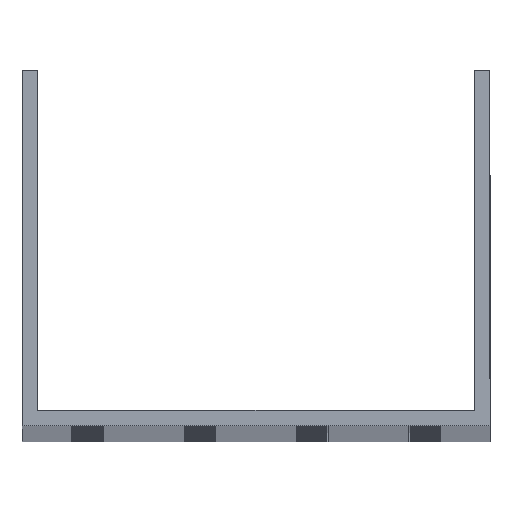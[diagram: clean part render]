
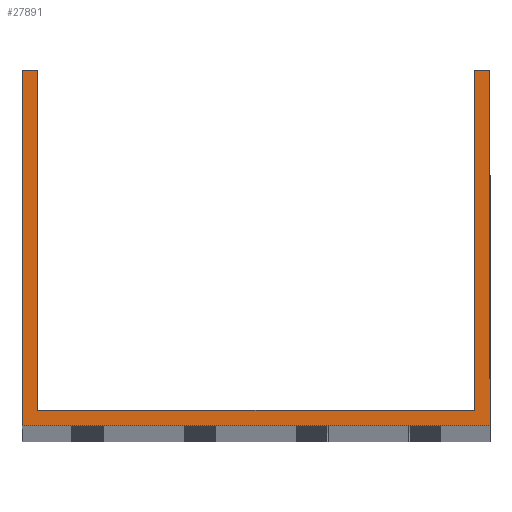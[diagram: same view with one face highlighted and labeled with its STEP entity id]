
A CAD part, top view. The second image highlights one B-rep face of the part: STEP entity #27891.
In plain terms, the highlighted planar face has unit normal (0, 0, 1).
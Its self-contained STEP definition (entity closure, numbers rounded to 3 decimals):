
#1480 = LINE ( 'NONE', #46314, #17256 ) ;
#4371 = CARTESIAN_POINT ( 'NONE',  ( 52., 79., 1000. ) ) ;
#4376 = VERTEX_POINT ( 'NONE', #4371 ) ;
#4600 = VECTOR ( 'NONE', #40251, 1000. ) ;
#5480 = LINE ( 'NONE', #16670, #40493 ) ;
#6512 = LINE ( 'NONE', #42334, #51963 ) ;
#8080 = VECTOR ( 'NONE', #13184, 1000. ) ;
#8086 = EDGE_CURVE ( 'NONE', #16074, #39019, #6512, .T. ) ;
#8810 = DIRECTION ( 'NONE',  ( 1., 0., 0. ) ) ;
#8854 = ORIENTED_EDGE ( 'NONE', *, *, #8086, .F. ) ;
#8920 = VECTOR ( 'NONE', #8810, 1000. ) ;
#9709 = DIRECTION ( 'NONE',  ( 0., -1., 0. ) ) ;
#10621 = VERTEX_POINT ( 'NONE', #35277 ) ;
#10988 = ORIENTED_EDGE ( 'NONE', *, *, #52279, .F. ) ;
#10990 = CARTESIAN_POINT ( 'NONE',  ( -52., 0., 1000. ) ) ;
#11875 = LINE ( 'NONE', #44230, #4600 ) ;
#12452 = ORIENTED_EDGE ( 'NONE', *, *, #22866, .F. ) ;
#12587 = EDGE_CURVE ( 'NONE', #4376, #24674, #5480, .T. ) ;
#13184 = DIRECTION ( 'NONE',  ( -1., 0., 0. ) ) ;
#15161 = VECTOR ( 'NONE', #21233, 1000. ) ;
#16074 = VERTEX_POINT ( 'NONE', #20303 ) ;
#16670 = CARTESIAN_POINT ( 'NONE',  ( -52., 79., 1000. ) ) ;
#17256 = VECTOR ( 'NONE', #9709, 1000. ) ;
#20303 = CARTESIAN_POINT ( 'NONE',  ( -48.5, 79., 1000. ) ) ;
#21143 = ORIENTED_EDGE ( 'NONE', *, *, #39841, .T. ) ;
#21233 = DIRECTION ( 'NONE',  ( 0., 1., 0. ) ) ;
#21995 = CARTESIAN_POINT ( 'NONE',  ( 48.5, 79., 1000. ) ) ;
#22708 = EDGE_LOOP ( 'NONE', ( #8854, #36629, #33543, #34823, #21143, #35068, #10988, #12452 ) ) ;
#22804 = CARTESIAN_POINT ( 'NONE',  ( 48.5, 3.5, 1000. ) ) ;
#22866 = EDGE_CURVE ( 'NONE', #39019, #47284, #40907, .T. ) ;
#23877 = VERTEX_POINT ( 'NONE', #31938 ) ;
#24674 = VERTEX_POINT ( 'NONE', #21995 ) ;
#25219 = CARTESIAN_POINT ( 'NONE',  ( 52., 79., 1000. ) ) ;
#26056 = VECTOR ( 'NONE', #37909, 1000. ) ;
#26357 = VERTEX_POINT ( 'NONE', #10990 ) ;
#27826 = DIRECTION ( 'NONE',  ( 0., 0., 1. ) ) ;
#27891 = ADVANCED_FACE ( 'NONE', ( #32611 ), #36582, .T. ) ;
#31560 = EDGE_CURVE ( 'NONE', #10621, #26357, #1480, .T. ) ;
#31938 = CARTESIAN_POINT ( 'NONE',  ( 52., 0., 1000. ) ) ;
#32237 = AXIS2_PLACEMENT_3D ( 'NONE', #52255, #27826, #45051 ) ;
#32611 = FACE_OUTER_BOUND ( 'NONE', #22708, .T. ) ;
#33109 = DIRECTION ( 'NONE',  ( -1., 0., 0. ) ) ;
#33347 = LINE ( 'NONE', #49523, #8080 ) ;
#33543 = ORIENTED_EDGE ( 'NONE', *, *, #31560, .T. ) ;
#34705 = LINE ( 'NONE', #38679, #26056 ) ;
#34823 = ORIENTED_EDGE ( 'NONE', *, *, #48118, .T. ) ;
#35068 = ORIENTED_EDGE ( 'NONE', *, *, #12587, .T. ) ;
#35277 = CARTESIAN_POINT ( 'NONE',  ( -52., 79., 1000. ) ) ;
#36582 = PLANE ( 'NONE',  #32237 ) ;
#36629 = ORIENTED_EDGE ( 'NONE', *, *, #49109, .T. ) ;
#37727 = CARTESIAN_POINT ( 'NONE',  ( -52., 3.5, 1000. ) ) ;
#37909 = DIRECTION ( 'NONE',  ( 0., 1., 0. ) ) ;
#38679 = CARTESIAN_POINT ( 'NONE',  ( 48.5, 79., 1000. ) ) ;
#39019 = VERTEX_POINT ( 'NONE', #40811 ) ;
#39841 = EDGE_CURVE ( 'NONE', #23877, #4376, #41144, .T. ) ;
#40251 = DIRECTION ( 'NONE',  ( 1., 0., 0. ) ) ;
#40493 = VECTOR ( 'NONE', #33109, 1000. ) ;
#40811 = CARTESIAN_POINT ( 'NONE',  ( -48.5, 3.5, 1000. ) ) ;
#40907 = LINE ( 'NONE', #37727, #8920 ) ;
#41144 = LINE ( 'NONE', #25219, #15161 ) ;
#42334 = CARTESIAN_POINT ( 'NONE',  ( -48.5, 79., 1000. ) ) ;
#44230 = CARTESIAN_POINT ( 'NONE',  ( -52., 0., 1000. ) ) ;
#45051 = DIRECTION ( 'NONE',  ( 1., 0., 0. ) ) ;
#46314 = CARTESIAN_POINT ( 'NONE',  ( -52., 79., 1000. ) ) ;
#47284 = VERTEX_POINT ( 'NONE', #22804 ) ;
#48118 = EDGE_CURVE ( 'NONE', #26357, #23877, #11875, .T. ) ;
#49109 = EDGE_CURVE ( 'NONE', #16074, #10621, #33347, .T. ) ;
#49523 = CARTESIAN_POINT ( 'NONE',  ( -52., 79., 1000. ) ) ;
#50584 = DIRECTION ( 'NONE',  ( 0., -1., 0. ) ) ;
#51963 = VECTOR ( 'NONE', #50584, 1000. ) ;
#52255 = CARTESIAN_POINT ( 'NONE',  ( 0., 0., 1000. ) ) ;
#52279 = EDGE_CURVE ( 'NONE', #47284, #24674, #34705, .T. ) ;
